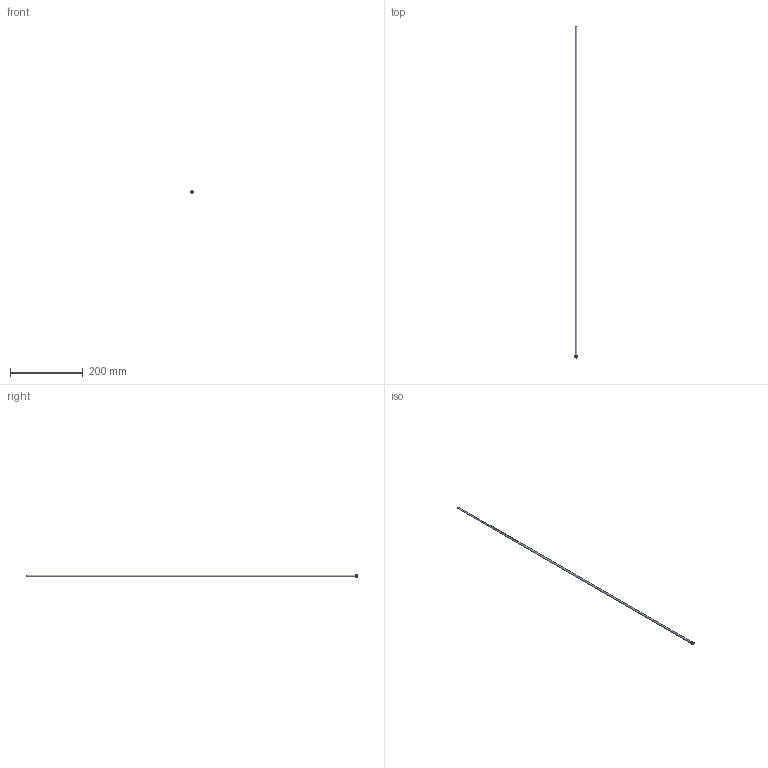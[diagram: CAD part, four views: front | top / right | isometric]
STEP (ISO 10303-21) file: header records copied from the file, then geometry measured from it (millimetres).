
FILE_DESCRIPTION(/* description */ (''),/* implementation_level */ '2;1');
FILE_NAME(/* name */ 'C:/Users/drich/Desktop/PT16-187-36 v1.step',/* time_stamp */ '2019-12-27T15:20:50-06:00',/* author */ (''),/* organization */ (''),/* preprocessor_version */ 'ST-DEVELOPER v18',/* originating_system */ 'Autodesk Translation Framework v8.12.0.6',/* authorisation */ '');
FILE_SCHEMA (('AUTOMOTIVE_DESIGN { 1 0 10303 214 3 1 1 }'));
Length unit declared in the file: inch
Products named in the file (1): PT16-187-36
Bounding box: 7.62 x 914.4 x 7.62 mm (x, y, z)
Volume: 3290.7 mm3; surface area: 25863.9 mm2
Topology: 1 solids, 1 shells, 25 faces, 62 edges, 41 vertices
Faces by surface type: plane 16, cylinder 5, torus 2, cone 2
Full cylindrical faces by diameter (mm): 3.962 x1, 4.242 x1, 4.724 x1, 5.969 x1, 7.616 x1
Entity records: 798 total; most frequent: DIRECTION 145, CARTESIAN_POINT 129, ORIENTED_EDGE 124, EDGE_CURVE 62, AXIS2_PLACEMENT_3D 57, VERTEX_POINT 41, LINE 31, VECTOR 31
